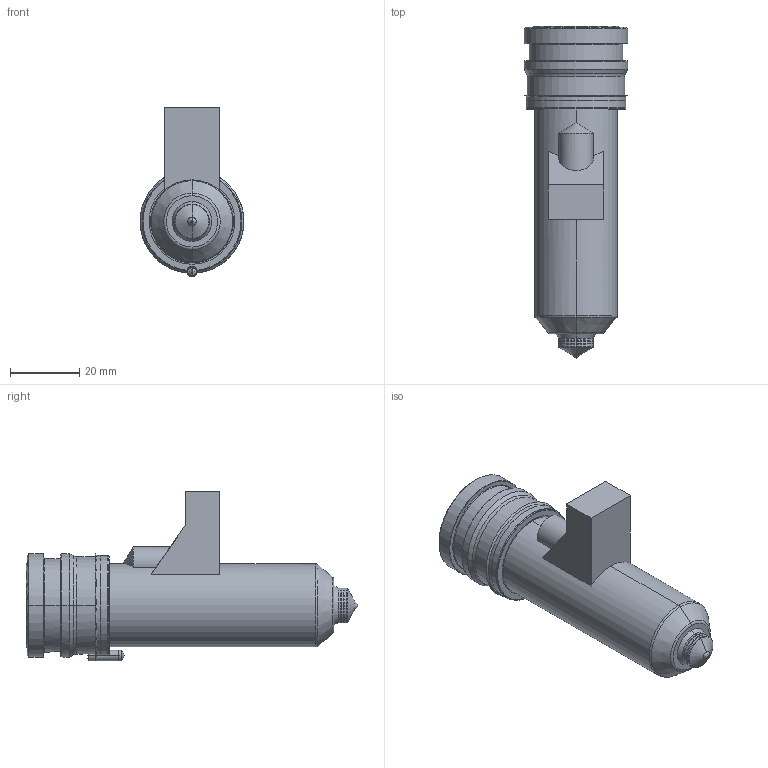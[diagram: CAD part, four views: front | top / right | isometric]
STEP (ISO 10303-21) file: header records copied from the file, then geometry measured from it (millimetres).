
FILE_DESCRIPTION((''),'2;1');
FILE_NAME('MPN-10-29-TS10-076-M','2026-02-05T12:49:01',('UPTIO'),('Thermoplay S.p.A.'),'CREO PARAMETRIC BY PTC INC, 2023494','CREO PARAMETRIC BY PTC INC, 2023494','');
FILE_SCHEMA(('CONFIG_CONTROL_DESIGN','SHAPE_APPEARANCE_LAYERS_GROUPS'));
Length unit declared in the file: millimetre
Products named in the file (1): MPN-10-29-TS10-076-M
Bounding box: 30 x 96 x 49 mm (x, y, z)
Volume: 31178.2 mm3; surface area: 31861.7 mm2
Topology: 3 solids, 5 shells, 542 faces, 1383 edges, 843 vertices
Faces by surface type: cylinder 177, plane 148, bspline 72, torus 67, cone 64, sphere 10, extrusion 4
Entity records: 28261 total; most frequent: CARTESIAN_POINT 12485, ORIENTED_EDGE 2748, DIRECTION 2578, EDGE_CURVE 1374, AXIS2_PLACEMENT_3D 1023, VERTEX_POINT 843, EDGE_LOOP 571, CIRCLE 556
